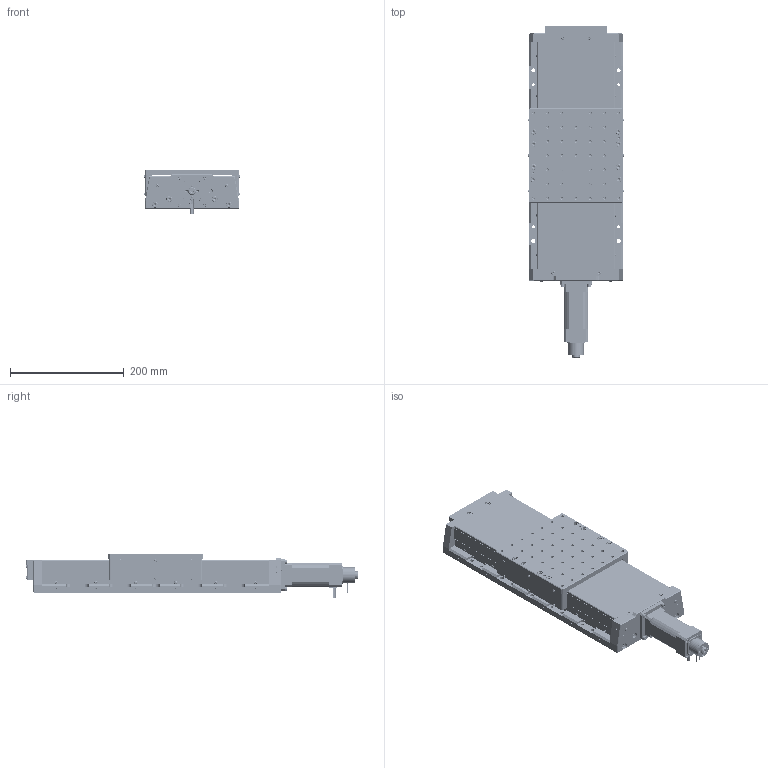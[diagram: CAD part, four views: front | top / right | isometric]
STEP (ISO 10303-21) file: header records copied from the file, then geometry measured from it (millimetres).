
FILE_DESCRIPTION((''),'2;1');
FILE_NAME('8MT165-200-B43 SB.stp','2017-10-10T08:02:53',(''),(''),'Mechanical Desktop 2011','Mechanical Desktop 2011',', , ');
FILE_SCHEMA(('CONFIG_CONTROL_DESIGN'));
Length unit declared in the file: millimetre
Products named in the file (1): Product
Bounding box: 168.2 x 583.7 x 79 mm (x, y, z)
Volume: 4075824.4 mm3; surface area: 493410.8 mm2
Topology: 2 solids, 191 shells, 4257 faces, 10587 edges, 6612 vertices
Faces by surface type: plane 1566, bspline 1056, cylinder 877, cone 606, torus 144, sphere 8
Entity records: 144011 total; most frequent: CARTESIAN_POINT 45842, DIRECTION 20599, ORIENTED_EDGE 20506, EDGE_CURVE 10253, AXIS2_PLACEMENT_3D 7858, VERTEX_POINT 6612, VECTOR 4883, LINE 4883
